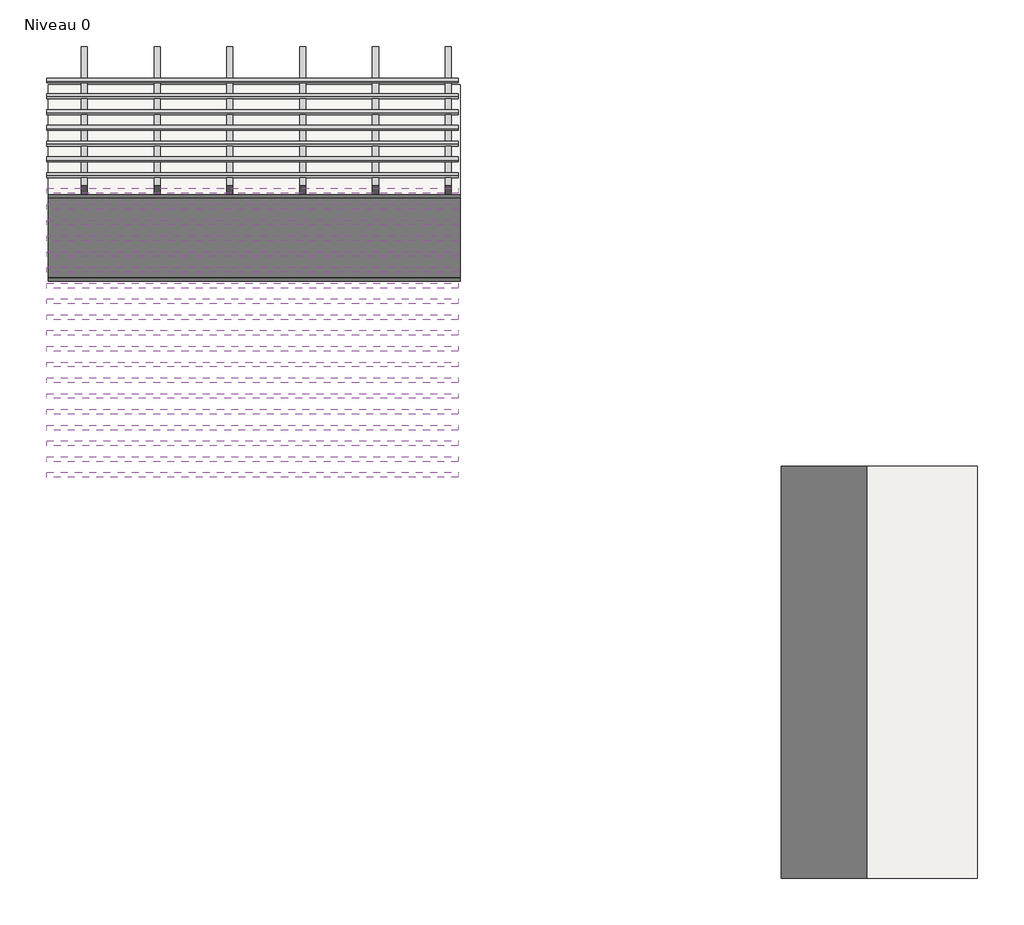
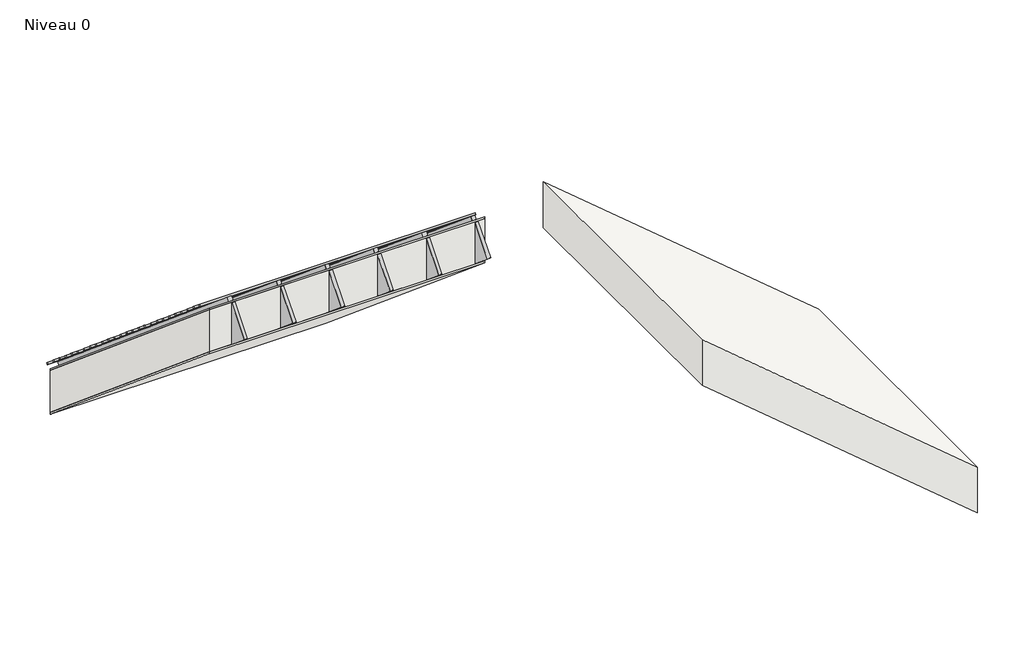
# One storey: 38 beams, 5 roofs.
"""IFC4 building model written with IfcOpenShell, lengths in millimetres."""

from ifc_helpers import new_model, si_unit, frame, origin, place, context, project, spatial, polyline, outline, extrude, transform, mapped, element, save
from components import beam_30x20_9d77b03e, beam_35x370_4541d8ee, beam_45x45_32f193ed

model = new_model("IFC4")

# Units and contexts
model_context = context("Model", 3, world=origin())
ifc_project = project(units=[si_unit("LENGTHUNIT", "METRE", prefix="MILLI")], contexts=[model_context])

# Site, building, storey
site = spatial("IfcSite", under=ifc_project)
building = spatial("IfcBuilding", under=site)
storey = spatial("IfcBuildingStorey", under=building, Name="Niveau 0", Elevation=0.0)

# Beams
placement = place(None, origin())
beam_30x20_shape = beam_30x20_9d77b03e(model_context)
element("IfcBeam", 1, ObjectType="Poutre - Bois d'oeuvre : 30x20", at=placement, inside=storey, context=model_context, shape_type="MappedRepresentation", body=[
    mapped(beam_30x20_shape, transform((-10386.5450193, 991.0758847, 572.4238215), x_axis=(1.0, 0.0, 0.0), y_axis=(0.0, 0.7660444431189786, -0.6427876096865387), z_axis=(0.0, 0.6427876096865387, 0.7660444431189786))),
])
element("IfcBeam", 2, ObjectType="Poutre - Bois d'oeuvre : 30x20", at=placement, inside=storey, context=model_context, shape_type="MappedRepresentation", body=[
    mapped(beam_30x20_shape, transform((-10386.5450193, 876.1692182, 668.841963), x_axis=(1.0, 0.0, 0.0), y_axis=(0.0, 0.7660444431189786, -0.6427876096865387), z_axis=(0.0, 0.6427876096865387, 0.7660444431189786))),
])
element("IfcBeam", 3, ObjectType="Poutre - Bois d'oeuvre : 30x20", at=placement, inside=storey, context=model_context, shape_type="MappedRepresentation", body=[
    mapped(beam_30x20_shape, transform((-10386.5450193, 761.2625518, 765.2601044), x_axis=(1.0, 0.0, 0.0), y_axis=(0.0, 0.7660444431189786, -0.6427876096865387), z_axis=(0.0, 0.6427876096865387, 0.7660444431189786))),
])
element("IfcBeam", 4, ObjectType="Poutre - Bois d'oeuvre : 30x20", at=placement, inside=storey, context=model_context, shape_type="MappedRepresentation", body=[
    mapped(beam_30x20_shape, transform((-10386.5450193, 646.3558853, 861.6782459), x_axis=(1.0, 0.0, 0.0), y_axis=(0.0, 0.7660444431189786, -0.6427876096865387), z_axis=(0.0, 0.6427876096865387, 0.7660444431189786))),
])
element("IfcBeam", 5, ObjectType="Poutre - Bois d'oeuvre : 30x20", at=placement, inside=storey, context=model_context, shape_type="MappedRepresentation", body=[
    mapped(beam_30x20_shape, transform((-10386.5450193, 531.4492188, 958.0963873), x_axis=(1.0, 0.0, 0.0), y_axis=(0.0, 0.7660444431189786, -0.6427876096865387), z_axis=(0.0, 0.6427876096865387, 0.7660444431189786))),
])
element("IfcBeam", 6, ObjectType="Poutre - Bois d'oeuvre : 30x20", at=placement, inside=storey, context=model_context, shape_type="MappedRepresentation", body=[
    mapped(beam_30x20_shape, transform((-10386.5450193, 416.5425524, 1054.5145288), x_axis=(1.0, 0.0, 0.0), y_axis=(0.0, 0.7660444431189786, -0.6427876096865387), z_axis=(0.0, 0.6427876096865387, 0.7660444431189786))),
])
element("IfcBeam", 7, ObjectType="Poutre - Bois d'oeuvre : 30x20", at=placement, inside=storey, context=model_context, shape_type="MappedRepresentation", body=[
    mapped(beam_30x20_shape, transform((-10386.5450193, 301.6358859, 1150.9326703), x_axis=(1.0, 0.0, 0.0), y_axis=(0.0, 0.7660444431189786, -0.6427876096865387), z_axis=(0.0, 0.6427876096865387, 0.7660444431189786))),
])
element("IfcBeam", 8, ObjectType="Poutre - Bois d'oeuvre : 30x20", at=placement, inside=storey, context=model_context, shape_type="MappedRepresentation", body=[
    mapped(beam_30x20_shape, transform((-10386.5450193, 186.7292194, 1247.3508117), x_axis=(1.0, 0.0, 0.0), y_axis=(0.0, 0.7660444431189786, -0.6427876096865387), z_axis=(0.0, 0.6427876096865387, 0.7660444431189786))),
])
element("IfcBeam", 9, ObjectType="Poutre - Bois d'oeuvre : 30x20", at=placement, inside=storey, context=model_context, shape_type="MappedRepresentation", body=[
    mapped(beam_30x20_shape, transform((-10386.5450193, 71.822553, 1343.7689532), x_axis=(1.0, 0.0, 0.0), y_axis=(0.0, 0.7660444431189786, -0.6427876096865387), z_axis=(0.0, 0.6427876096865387, 0.7660444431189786))),
])
element("IfcBeam", 10, ObjectType="Poutre - Bois d'oeuvre : 30x20", at=placement, inside=storey, context=model_context, shape_type="MappedRepresentation", body=[
    mapped(beam_30x20_shape, transform((-10386.5450193, -43.0841135, 1440.1870946), x_axis=(1.0, 0.0, 0.0), y_axis=(0.0, 0.7660444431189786, -0.6427876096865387), z_axis=(0.0, 0.6427876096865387, 0.7660444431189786))),
])
element("IfcBeam", 11, ObjectType="Poutre - Bois d'oeuvre : 30x20", at=placement, inside=storey, context=model_context, shape_type="MappedRepresentation", body=[
    mapped(beam_30x20_shape, transform((-10386.5450193, -157.99078, 1536.6052361), x_axis=(1.0, 0.0, 0.0), y_axis=(0.0, 0.7660444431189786, -0.6427876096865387), z_axis=(0.0, 0.6427876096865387, 0.7660444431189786))),
])
element("IfcBeam", 12, ObjectType="Poutre - Bois d'oeuvre : 30x20", at=placement, inside=storey, context=model_context, shape_type="MappedRepresentation", body=[
    mapped(beam_30x20_shape, transform((-10386.5450193, -272.8974464, 1633.0233775), x_axis=(1.0, 0.0, 0.0), y_axis=(0.0, 0.7660444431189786, -0.6427876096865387), z_axis=(0.0, 0.6427876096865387, 0.7660444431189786))),
])
element("IfcBeam", 13, ObjectType="Poutre - Bois d'oeuvre : 30x20", at=placement, inside=storey, context=model_context, shape_type="MappedRepresentation", body=[
    mapped(beam_30x20_shape, transform((-10386.5450193, -387.8041129, 1729.441519), x_axis=(1.0, 0.0, 0.0), y_axis=(0.0, 0.7660444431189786, -0.6427876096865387), z_axis=(0.0, 0.6427876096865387, 0.7660444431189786))),
])
element("IfcBeam", 14, ObjectType="Poutre - Bois d'oeuvre : 30x20", at=placement, inside=storey, context=model_context, shape_type="MappedRepresentation", body=[
    mapped(beam_30x20_shape, transform((-10386.5450193, -502.7107794, 1825.8596604), x_axis=(1.0, 0.0, 0.0), y_axis=(0.0, 0.7660444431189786, -0.6427876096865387), z_axis=(0.0, 0.6427876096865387, 0.7660444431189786))),
])
element("IfcBeam", 15, ObjectType="Poutre - Bois d'oeuvre : 30x20", at=placement, inside=storey, context=model_context, shape_type="MappedRepresentation", body=[
    mapped(beam_30x20_shape, transform((-10386.5450193, -617.6174458, 1922.2778019), x_axis=(1.0, 0.0, 0.0), y_axis=(0.0, 0.7660444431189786, -0.6427876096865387), z_axis=(0.0, 0.6427876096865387, 0.7660444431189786))),
])
element("IfcBeam", 16, ObjectType="Poutre - Bois d'oeuvre : 30x20", at=placement, inside=storey, context=model_context, shape_type="MappedRepresentation", body=[
    mapped(beam_30x20_shape, transform((-10386.5450193, -732.5241123, 2018.6959433), x_axis=(1.0, 0.0, 0.0), y_axis=(0.0, 0.7660444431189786, -0.6427876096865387), z_axis=(0.0, 0.6427876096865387, 0.7660444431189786))),
])
element("IfcBeam", 17, ObjectType="Poutre - Bois d'oeuvre : 30x20", at=placement, inside=storey, context=model_context, shape_type="MappedRepresentation", body=[
    mapped(beam_30x20_shape, transform((-10386.5450193, -847.4307788, 2115.1140848), x_axis=(1.0, 0.0, 0.0), y_axis=(0.0, 0.7660444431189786, -0.6427876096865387), z_axis=(0.0, 0.6427876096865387, 0.7660444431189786))),
])
element("IfcBeam", 18, ObjectType="Poutre - Bois d'oeuvre : 30x20", at=placement, inside=storey, context=model_context, shape_type="MappedRepresentation", body=[
    mapped(beam_30x20_shape, transform((-10386.5450193, -962.3374452, 2211.5322262), x_axis=(1.0, 0.0, 0.0), y_axis=(0.0, 0.7660444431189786, -0.6427876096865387), z_axis=(0.0, 0.6427876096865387, 0.7660444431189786))),
])
element("IfcBeam", 19, ObjectType="Poutre - Bois d'oeuvre : 30x20", at=placement, inside=storey, context=model_context, shape_type="MappedRepresentation", body=[
    mapped(beam_30x20_shape, transform((-10386.5450193, -1077.2441117, 2307.9503677), x_axis=(1.0, 0.0, 0.0), y_axis=(0.0, 0.7660444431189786, -0.6427876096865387), z_axis=(0.0, 0.6427876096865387, 0.7660444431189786))),
])
element("IfcBeam", 20, ObjectType="Poutre - Bois d'oeuvre : 30x20", at=placement, inside=storey, context=model_context, shape_type="MappedRepresentation", body=[
    mapped(beam_30x20_shape, transform((-10386.5450193, -1192.1507782, 2404.3685091), x_axis=(1.0, 0.0, 0.0), y_axis=(0.0, 0.7660444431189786, -0.6427876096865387), z_axis=(0.0, 0.6427876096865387, 0.7660444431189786))),
])
element("IfcBeam", 21, ObjectType="Poutre - Bois d'oeuvre : 30x20", at=placement, inside=storey, context=model_context, shape_type="MappedRepresentation", body=[
    mapped(beam_30x20_shape, transform((-10386.5450193, -1307.0574446, 2500.7866506), x_axis=(1.0, 0.0, 0.0), y_axis=(0.0, 0.7660444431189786, -0.6427876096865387), z_axis=(0.0, 0.6427876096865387, 0.7660444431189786))),
])
element("IfcBeam", 22, ObjectType="Poutre - Bois d'oeuvre : 30x20", at=placement, inside=storey, context=model_context, shape_type="MappedRepresentation", body=[
    mapped(beam_30x20_shape, transform((-10386.5450193, -1421.9641111, 2597.204792), x_axis=(1.0, 0.0, 0.0), y_axis=(0.0, 0.7660444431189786, -0.6427876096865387), z_axis=(0.0, 0.6427876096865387, 0.7660444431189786))),
])
element("IfcBeam", 23, ObjectType="Poutre - Bois d'oeuvre : 30x20", at=placement, inside=storey, context=model_context, shape_type="MappedRepresentation", body=[
    mapped(beam_30x20_shape, transform((-10386.5450193, -1536.8707776, 2693.6229335), x_axis=(1.0, 0.0, 0.0), y_axis=(0.0, 0.7660444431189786, -0.6427876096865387), z_axis=(0.0, 0.6427876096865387, 0.7660444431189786))),
])
element("IfcBeam", 24, ObjectType="Poutre - Bois d'oeuvre : 30x20", at=placement, inside=storey, context=model_context, shape_type="MappedRepresentation", body=[
    mapped(beam_30x20_shape, transform((-10386.5450193, -1651.777444, 2790.041075), x_axis=(1.0, 0.0, 0.0), y_axis=(0.0, 0.7660444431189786, -0.6427876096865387), z_axis=(0.0, 0.6427876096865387, 0.7660444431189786))),
])
element("IfcBeam", 25, ObjectType="Poutre - Bois d'oeuvre : 30x20", at=placement, inside=storey, context=model_context, shape_type="MappedRepresentation", body=[
    mapped(beam_30x20_shape, transform((-10386.5450193, -1766.6841105, 2886.4592164), x_axis=(1.0, 0.0, 0.0), y_axis=(0.0, 0.7660444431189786, -0.6427876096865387), z_axis=(0.0, 0.6427876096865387, 0.7660444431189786))),
])
element("IfcBeam", 26, ObjectType="Poutre - Bois d'oeuvre : 30x20", at=placement, inside=storey, context=model_context, shape_type="MappedRepresentation", body=[
    mapped(beam_30x20_shape, transform((-10386.5450193, -1881.590777, 2982.8773579), x_axis=(1.0, 0.0, 0.0), y_axis=(0.0, 0.7660444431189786, -0.6427876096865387), z_axis=(0.0, 0.6427876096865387, 0.7660444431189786))),
])
beam_35x370_shape = beam_35x370_4541d8ee(model_context)
element("IfcBeam", 27, ObjectType="Poutre - Lamellé-collé - Espèces occidentales : 35x370", at=placement, inside=storey, context=model_context, shape_type="MappedRepresentation", body=[
    mapped(beam_35x370_shape, transform((-11611.3570017, -536.2650668, 1519.8307845), x_axis=(0.0, -0.7660444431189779, 0.6427876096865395), y_axis=(1.0, 0.0, 0.0), z_axis=(0.0, 0.6427876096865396, 0.7660444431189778))),
])
element("IfcBeam", 28, ObjectType="Poutre - Lamellé-collé - Espèces occidentales : 35x370", at=placement, inside=storey, context=model_context, shape_type="MappedRepresentation", body=[
    mapped(beam_35x370_shape, transform((-11081.3570017, -536.2650668, 1519.8307845), x_axis=(0.0, -0.7660444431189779, 0.6427876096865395), y_axis=(1.0, 0.0, 0.0), z_axis=(0.0, 0.6427876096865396, 0.7660444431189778))),
])
element("IfcBeam", 29, ObjectType="Poutre - Lamellé-collé - Espèces occidentales : 35x370", at=placement, inside=storey, context=model_context, shape_type="MappedRepresentation", body=[
    mapped(beam_35x370_shape, transform((-10551.3570017, -536.2650668, 1519.8307845), x_axis=(0.0, -0.7660444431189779, 0.6427876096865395), y_axis=(1.0, 0.0, 0.0), z_axis=(0.0, 0.6427876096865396, 0.7660444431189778))),
])
element("IfcBeam", 30, ObjectType="Poutre - Lamellé-collé - Espèces occidentales : 35x370", at=placement, inside=storey, context=model_context, shape_type="MappedRepresentation", body=[
    mapped(beam_35x370_shape, transform((-10021.3570017, -536.2650668, 1519.8307845), x_axis=(0.0, -0.7660444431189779, 0.6427876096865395), y_axis=(1.0, 0.0, 0.0), z_axis=(0.0, 0.6427876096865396, 0.7660444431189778))),
])
element("IfcBeam", 31, ObjectType="Poutre - Lamellé-collé - Espèces occidentales : 35x370", at=placement, inside=storey, context=model_context, shape_type="MappedRepresentation", body=[
    mapped(beam_35x370_shape, transform((-9491.3570017, -536.2650668, 1519.8307845), x_axis=(0.0, -0.7660444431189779, 0.6427876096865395), y_axis=(1.0, 0.0, 0.0), z_axis=(0.0, 0.6427876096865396, 0.7660444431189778))),
])
element("IfcBeam", 32, ObjectType="Poutre - Lamellé-collé - Espèces occidentales : 35x370", at=placement, inside=storey, context=model_context, shape_type="MappedRepresentation", body=[
    mapped(beam_35x370_shape, transform((-8961.3570017, -536.2650668, 1519.8307845), x_axis=(0.0, -0.7660444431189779, 0.6427876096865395), y_axis=(1.0, 0.0, 0.0), z_axis=(0.0, 0.6427876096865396, 0.7660444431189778))),
])
beam_45x45_shape = beam_45x45_32f193ed(model_context)
element("IfcBeam", 33, ObjectType="Poutre - Bois d'oeuvre : 45x45", at=placement, inside=storey, context=model_context, shape_type="MappedRepresentation", body=[
    mapped(beam_45x45_shape, transform((-11611.3570017, -361.2397165, 1664.7256068), x_axis=(0.0, -0.7660444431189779, 0.6427876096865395), y_axis=(1.0, 0.0, 0.0), z_axis=(0.0, 0.6427876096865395, 0.7660444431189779))),
])
element("IfcBeam", 34, ObjectType="Poutre - Bois d'oeuvre : 45x45", at=placement, inside=storey, context=model_context, shape_type="MappedRepresentation", body=[
    mapped(beam_45x45_shape, transform((-11081.3570017, -361.2397165, 1664.7256068), x_axis=(0.0, -0.7660444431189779, 0.6427876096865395), y_axis=(1.0, 0.0, 0.0), z_axis=(0.0, 0.6427876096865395, 0.7660444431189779))),
])
element("IfcBeam", 35, ObjectType="Poutre - Bois d'oeuvre : 45x45", at=placement, inside=storey, context=model_context, shape_type="MappedRepresentation", body=[
    mapped(beam_45x45_shape, transform((-10551.3570017, -361.2397165, 1664.7256068), x_axis=(0.0, -0.7660444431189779, 0.6427876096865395), y_axis=(1.0, 0.0, 0.0), z_axis=(0.0, 0.6427876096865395, 0.7660444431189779))),
])
element("IfcBeam", 36, ObjectType="Poutre - Bois d'oeuvre : 45x45", at=placement, inside=storey, context=model_context, shape_type="MappedRepresentation", body=[
    mapped(beam_45x45_shape, transform((-10021.3570017, -361.2397165, 1664.7256068), x_axis=(0.0, -0.7660444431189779, 0.6427876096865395), y_axis=(1.0, 0.0, 0.0), z_axis=(0.0, 0.6427876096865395, 0.7660444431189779))),
])
element("IfcBeam", 37, ObjectType="Poutre - Bois d'oeuvre : 45x45", at=placement, inside=storey, context=model_context, shape_type="MappedRepresentation", body=[
    mapped(beam_45x45_shape, transform((-9491.3570017, -361.2397165, 1664.7256068), x_axis=(0.0, -0.7660444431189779, 0.6427876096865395), y_axis=(1.0, 0.0, 0.0), z_axis=(0.0, 0.6427876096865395, 0.7660444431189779))),
])
element("IfcBeam", 38, ObjectType="Poutre - Bois d'oeuvre : 45x45", at=placement, inside=storey, context=model_context, shape_type="MappedRepresentation", body=[
    mapped(beam_45x45_shape, transform((-8961.3570017, -361.2397165, 1664.7256068), x_axis=(0.0, -0.7660444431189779, 0.6427876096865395), y_axis=(1.0, 0.0, 0.0), z_axis=(0.0, 0.6427876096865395, 0.7660444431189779))),
])

# Roofs
element("IfcRoof", 39, ObjectType="Botte de paille", at=placement, inside=storey, context=model_context, shape_type="SweptSolid", body=[
    extrude(outline(polyline([(-2039.2574822, 3022.4915145), (960.7425178, 505.192621), (960.7425178, 22.1919239), (-2039.2574822, 2539.4908175), (-2039.2574822, 3022.4915145)])), frame((-11873.8570017, 0.0, 0.0), z_axis=(1.0, 0.0, 0.0), x_axis=(0.0, 1.0, 0.0)), (0.0, 0.0, 1.0), 3000.0),
])
element("IfcRoof", 40, ObjectType="Pare pluie rigide et perspirant", at=placement, inside=storey, context=model_context, shape_type="SweptSolid", body=[
    extrude(outline(polyline([(-2039.2574822, 3043.3780311), (960.7425178, 526.0791376), (960.7425178, 505.192621), (-2039.2574822, 3022.4915145), (-2039.2574822, 3043.3780311)])), frame((-11873.8570017, 0.0, 0.0), z_axis=(1.0, 0.0, 0.0), x_axis=(0.0, 1.0, 0.0)), (0.0, 0.0, 1.0), 3000.0),
])
element("IfcRoof", 41, ObjectType="Frein vapeur", at=placement, inside=storey, context=model_context, shape_type="SweptSolid", body=[
    extrude(outline(polyline([(-2039.2574822, 2539.4908175), (960.7425178, 22.1919239), (960.7425178, 20.8865166), (-2039.2574822, 2538.1854102), (-2039.2574822, 2539.4908175)])), frame((-11873.8570017, 0.0, 0.0), z_axis=(1.0, 0.0, 0.0), x_axis=(0.0, 1.0, 0.0)), (0.0, 0.0, 1.0), 3000.0),
])
element("IfcRoof", 42, ObjectType="Panneau rigide", at=placement, inside=storey, context=model_context, shape_type="SweptSolid", body=[
    extrude(outline(polyline([(-2039.2574822, 2538.1854102), (960.7425178, 20.8865166), (960.7425178, 0.0), (-2039.2574822, 2517.2988935), (-2039.2574822, 2538.1854102)])), frame((-11873.8570017, 0.0, 0.0), z_axis=(1.0, 0.0, 0.0), x_axis=(0.0, 1.0, 0.0)), (0.0, 0.0, 1.0), 3000.0),
])
element("IfcRoof", 43, ObjectType="Toit - SBR_10", at=placement, inside=storey, context=model_context, shape_type="SweptSolid", body=[
    extrude(outline(polyline([(526.0791376, -5106.7410256), (3043.3780311, -8106.7410256), (2517.2988935, -8106.7410256), (0.0, -5106.7410256), (526.0791376, -5106.7410256)])), frame((0.0, -4817.9488484, 0.0), z_axis=(0.0, 1.0, 0.0), x_axis=(0.0, 0.0, 1.0)), (0.0, 0.0, 1.0), 3000.0),
])

save(model, "model.ifc")
